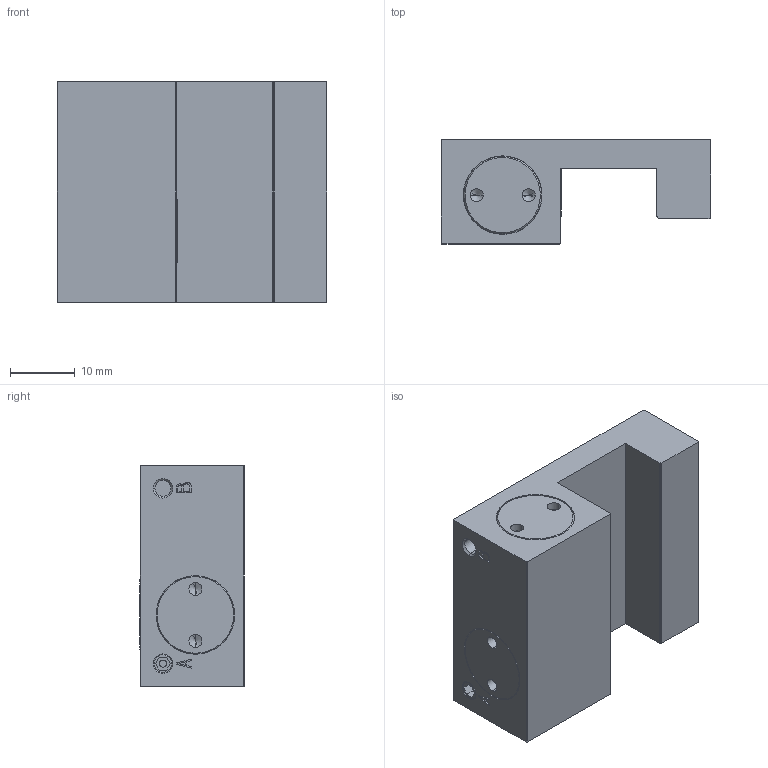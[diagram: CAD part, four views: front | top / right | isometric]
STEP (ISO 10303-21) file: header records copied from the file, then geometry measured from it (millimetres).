
FILE_DESCRIPTION( ( '' ), '1' );
FILE_NAME( 'E:/04 嬴檜蠱滌/0404 ZIMMER/040414 ZIMMER CAD download/MCP/MCP1514L---.stp', '2020-04-16T10:02:44', ( '' ), ( '' ), ' ', ' ', ' ' );
FILE_SCHEMA( ( 'automotive_design' ) );
Length unit declared in the file: millimetre
Products named in the file (1): 1
Bounding box: 41.5 x 16.05 x 34 mm (x, y, z)
Volume: 15506.9 mm3; surface area: 5767.5 mm2
Topology: 1 solids, 1 shells, 118 faces, 280 edges, 176 vertices
Faces by surface type: plane 64, cylinder 32, cone 22
Entity records: 6536 total; most frequent: DIRECTION 590, STYLED_ITEM 567, PRESENTATION_STYLE_ASSIGNMENT 567, CARTESIAN_POINT 567, COLOUR_RGB 567, ORIENTED_EDGE 544, EDGE_CURVE 272, CURVE_STYLE 272
